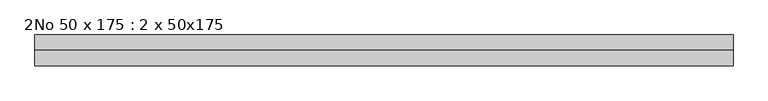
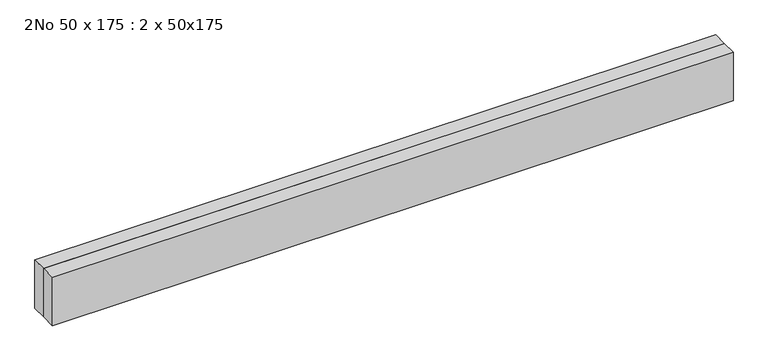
"""IFC4 building model written with IfcOpenShell, lengths in millimetres: beam geometry, 2No 50 x 175 : 2 x 50x175."""

from ifc_helpers import new_model, si_unit, frame, origin, place, context, project, spatial, polyline, outline, extrude, source, transform, mapped, element, save


def beam_2no_50_x_175_2_x_50x175_e2079f5a(model_context):
    return source(origin(), model_context, "Body", "SweptSolid", [
        extrude(outline(polyline([(1054.0000006, -25.0), (1054.0000006, -75.0), (-1204.0, -75.0), (-1204.0, -25.0), (1054.0000006, -25.0)])), frame((0.0, 0.0, -85.0), z_axis=(0.0, 0.0, 1.0), x_axis=(1.0, 0.0, 0.0)), (0.0, 0.0, 1.0), 170.0),
        extrude(outline(polyline([(1054.0000006, 25.0), (1054.0000006, -25.0), (-1204.0, -25.0), (-1204.0, 25.0), (1054.0000006, 25.0)])), frame((0.0, 0.0, -85.0), z_axis=(0.0, 0.0, 1.0), x_axis=(1.0, 0.0, 0.0)), (0.0, 0.0, 1.0), 170.0),
    ])


if __name__ == "__main__":
    model = new_model("IFC4")
    model_context = context("Model", 3, world=origin())
    ifc_project = project(units=[si_unit("LENGTHUNIT", "METRE", prefix="MILLI")], contexts=[model_context])
    site = spatial("IfcSite", under=ifc_project)
    building = spatial("IfcBuilding", under=site)
    placement = place(None, origin())
    beam_2no_50_x_175_2_x_50x175_shape = beam_2no_50_x_175_2_x_50x175_e2079f5a(model_context)
    element("IfcBeam", 1, ObjectType="2No 50 x 175 : 2 x 50x175", at=placement, inside=building, context=model_context, shape_type="MappedRepresentation", body=[
        mapped(beam_2no_50_x_175_2_x_50x175_shape, transform((0.0, 0.0, 0.0), x_axis=(1.0, 0.0, 0.0), y_axis=(0.0, 1.0, 0.0), z_axis=(0.0, 0.0, 1.0))),
    ])
    save(model, "model.ifc")
